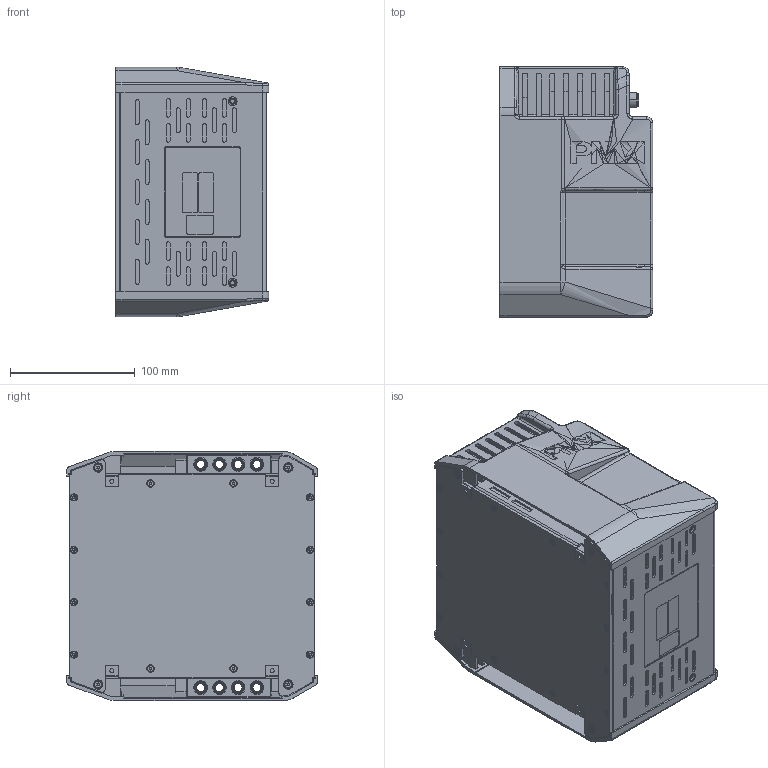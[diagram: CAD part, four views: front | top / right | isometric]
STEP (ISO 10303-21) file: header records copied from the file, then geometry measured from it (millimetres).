
FILE_DESCRIPTION((''),'2;1');
FILE_NAME('1_WGX001_STEP_ASM','2018-10-10T',('mellertr'),(''),'CREO PARAMETRIC BY PTC INC, 2017480','CREO PARAMETRIC BY PTC INC, 2017480','');
FILE_SCHEMA(('CONFIG_CONTROL_DESIGN'));
Products named in the file (5): 1_WGX001_STEP_SW0002; 3_6440_0167_PMX_DESIGNEL_LE; 3_6440_0167_PMX_DESIGNEL_RE; 1_PMX_DESIGNELEMENTE_STEP_ASM; 1_WGX001_STEP_ASM
Assembly tree (4 placements, depth 3):
  1_WGX001_STEP_ASM
    1_WGX001_STEP_SW0002
    1_PMX_DESIGNELEMENTE_STEP_ASM
      3_6440_0167_PMX_DESIGNEL_LE
      3_6440_0167_PMX_DESIGNEL_RE
Bounding box: 123.06 x 200.5 x 200 mm (x, y, z)
Volume: 2294222.8 mm3; surface area: 367429.1 mm2
Topology: 3 solids, 4 shells, 3972 faces, 10300 edges, 6588 vertices
Faces by surface type: bspline 3972
Entity records: 181436 total; most frequent: CARTESIAN_POINT 70286, ORIENTED_EDGE 20600, DIRECTION 12842, EDGE_CURVE 10300, VECTOR 6680, LINE 6680, VERTEX_POINT 6589, PRESENTATION_STYLE_ASSIGNMENT 5314
